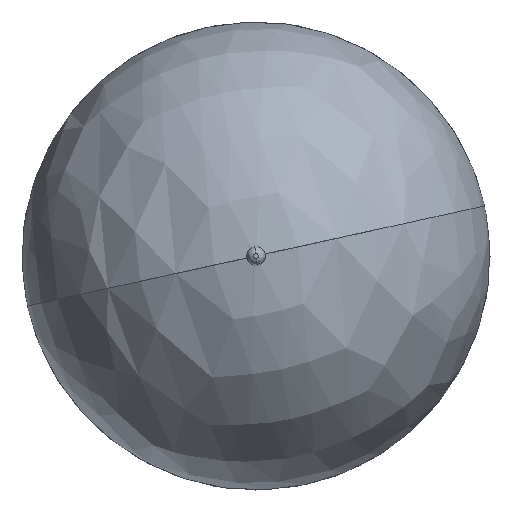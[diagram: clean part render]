
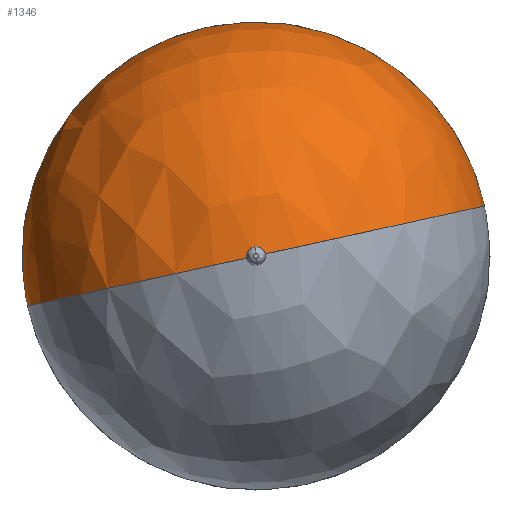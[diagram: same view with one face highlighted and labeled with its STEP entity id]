
A CAD part, front view. The second image highlights one B-rep face of the part: STEP entity #1346.
In plain terms, the highlighted free-form (B-spline) face has degree [3, 3] with [4, 4] control points.
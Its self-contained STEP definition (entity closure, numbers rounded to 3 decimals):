
#57 = ORIENTED_EDGE ( 'NONE', *, *, #421, .T. ) ;
#421 = EDGE_CURVE ( 'NONE', #4567, #7704, #6386, .T. ) ;
#477 = CARTESIAN_POINT ( 'NONE',  ( 250., 0., 0. ) ) ;
#609 = CIRCLE ( 'NONE', #1319, 3. ) ;
#787 = CARTESIAN_POINT ( 'NONE',  ( 0., -249.982, 3. ) ) ;
#949 = VERTEX_POINT ( 'NONE', #787 ) ;
#1072 = DIRECTION ( 'NONE',  ( 0., 1., 0. ) ) ;
#1319 = AXIS2_PLACEMENT_3D ( 'NONE', #4665, #1072, #5256 ) ;
#1346 = ADVANCED_FACE ( 'NONE', ( #1971 ), #1536, .T. ) ;
#1533 = CARTESIAN_POINT ( 'NONE',  ( 0., 0., 0. ) ) ;
#1536 =( BOUNDED_SURFACE ( )  B_SPLINE_SURFACE ( 3, 3, ( 
 ( #3647, #6129, #2548, #6724 ),
 ( #3717, #5423, #3868, #2204 ),
 ( #5765, #5243, #3245, #2882 ),
 ( #7040, #7647, #4080, #477 ) ),
 .UNSPECIFIED., .F., .F., .T. ) 
 B_SPLINE_SURFACE_WITH_KNOTS ( ( 4, 4 ),
 ( 4, 4 ),
 ( 0., 1. ),
 ( 0., 1. ),
 .UNSPECIFIED. ) 
 GEOMETRIC_REPRESENTATION_ITEM ( )  RATIONAL_B_SPLINE_SURFACE ( (
 ( 1., 0.805, 0.805, 1.),
 ( 0.333, 0.268, 0.268, 0.333),
 ( 0.333, 0.268, 0.268, 0.333),
 ( 1., 0.805, 0.805, 1.) ) ) 
 REPRESENTATION_ITEM ( '' )  SURFACE ( )  );
#1631 = CARTESIAN_POINT ( 'NONE',  ( 0., -249.982, 0. ) ) ;
#1778 = CARTESIAN_POINT ( 'NONE',  ( 0., 0., 0. ) ) ;
#1801 = DIRECTION ( 'NONE',  ( -1., 0., 0. ) ) ;
#1828 = DIRECTION ( 'NONE',  ( 0., 0., 1. ) ) ;
#1847 = CARTESIAN_POINT ( 'NONE',  ( 0., 0., 0. ) ) ;
#1872 = CIRCLE ( 'NONE', #6018, 3. ) ;
#1971 = FACE_OUTER_BOUND ( 'NONE', #6548, .T. ) ;
#2138 = DIRECTION ( 'NONE',  ( -1., 0., 0. ) ) ;
#2204 = CARTESIAN_POINT ( 'NONE',  ( -250., 0., 500. ) ) ;
#2226 = DIRECTION ( 'NONE',  ( 0., 0., 1. ) ) ;
#2286 = ORIENTED_EDGE ( 'NONE', *, *, #3013, .T. ) ;
#2298 = CARTESIAN_POINT ( 'NONE',  ( -3., -249.982, 0. ) ) ;
#2384 = DIRECTION ( 'NONE',  ( -1., 0., 0. ) ) ;
#2548 = CARTESIAN_POINT ( 'NONE',  ( -250., 0., 0. ) ) ;
#2719 = CIRCLE ( 'NONE', #5099, 250. ) ;
#2882 = CARTESIAN_POINT ( 'NONE',  ( 250., 0., 500. ) ) ;
#2915 = AXIS2_PLACEMENT_3D ( 'NONE', #1778, #5948, #2384 ) ;
#3013 = EDGE_CURVE ( 'NONE', #949, #5431, #609, .T. ) ;
#3148 = CARTESIAN_POINT ( 'NONE',  ( -250., 0., 0. ) ) ;
#3245 = CARTESIAN_POINT ( 'NONE',  ( 250., -292.893, 500. ) ) ;
#3326 = ORIENTED_EDGE ( 'NONE', *, *, #5472, .T. ) ;
#3606 = ORIENTED_EDGE ( 'NONE', *, *, #7652, .T. ) ;
#3647 = CARTESIAN_POINT ( 'NONE',  ( -250., 0., 0. ) ) ;
#3717 = CARTESIAN_POINT ( 'NONE',  ( -250., -500., 0. ) ) ;
#3868 = CARTESIAN_POINT ( 'NONE',  ( -250., -292.893, 500. ) ) ;
#4080 = CARTESIAN_POINT ( 'NONE',  ( 250., 0., 0. ) ) ;
#4528 = CARTESIAN_POINT ( 'NONE',  ( 250., 0., 0. ) ) ;
#4567 = VERTEX_POINT ( 'NONE', #3148 ) ;
#4599 = ORIENTED_EDGE ( 'NONE', *, *, #6259, .T. ) ;
#4665 = CARTESIAN_POINT ( 'NONE',  ( 0., -249.982, 0. ) ) ;
#5099 = AXIS2_PLACEMENT_3D ( 'NONE', #1533, #5699, #2138 ) ;
#5243 = CARTESIAN_POINT ( 'NONE',  ( 250., -500., 292.893 ) ) ;
#5256 = DIRECTION ( 'NONE',  ( 0., 0., 1. ) ) ;
#5423 = CARTESIAN_POINT ( 'NONE',  ( -250., -500., 292.893 ) ) ;
#5431 = VERTEX_POINT ( 'NONE', #6842 ) ;
#5472 = EDGE_CURVE ( 'NONE', #5431, #6117, #2719, .T. ) ;
#5699 = DIRECTION ( 'NONE',  ( 0., 0., 1. ) ) ;
#5765 = CARTESIAN_POINT ( 'NONE',  ( 250., -500., 0. ) ) ;
#5784 = DIRECTION ( 'NONE',  ( 0., 1., 0. ) ) ;
#5948 = DIRECTION ( 'NONE',  ( 0., -1., 0. ) ) ;
#6018 = AXIS2_PLACEMENT_3D ( 'NONE', #1631, #5784, #2226 ) ;
#6028 = AXIS2_PLACEMENT_3D ( 'NONE', #1847, #1828, #1801 ) ;
#6117 = VERTEX_POINT ( 'NONE', #4528 ) ;
#6129 = CARTESIAN_POINT ( 'NONE',  ( -250., 0., 0. ) ) ;
#6259 = EDGE_CURVE ( 'NONE', #6117, #4567, #6332, .T. ) ;
#6332 = CIRCLE ( 'NONE', #2915, 250. ) ;
#6386 = CIRCLE ( 'NONE', #6028, 250. ) ;
#6548 = EDGE_LOOP ( 'NONE', ( #4599, #57, #3606, #2286, #3326 ) ) ;
#6724 = CARTESIAN_POINT ( 'NONE',  ( -250., 0., 0. ) ) ;
#6842 = CARTESIAN_POINT ( 'NONE',  ( 3., -249.982, 0. ) ) ;
#7040 = CARTESIAN_POINT ( 'NONE',  ( 250., 0., 0. ) ) ;
#7647 = CARTESIAN_POINT ( 'NONE',  ( 250., 0., 0. ) ) ;
#7652 = EDGE_CURVE ( 'NONE', #7704, #949, #1872, .T. ) ;
#7704 = VERTEX_POINT ( 'NONE', #2298 ) ;
